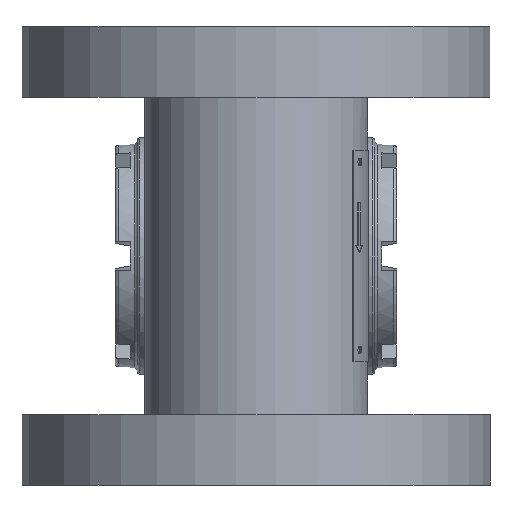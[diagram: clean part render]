
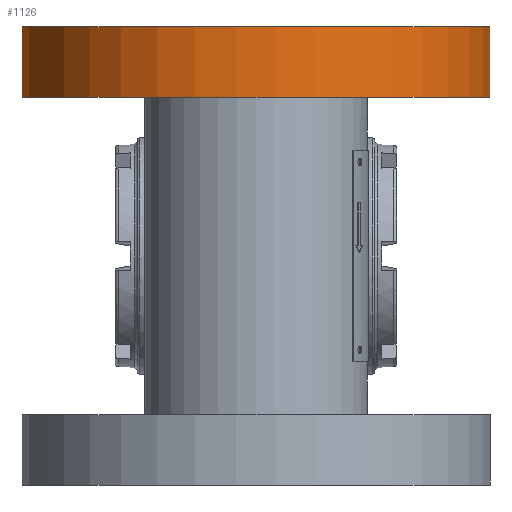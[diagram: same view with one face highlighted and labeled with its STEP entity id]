
A CAD part, front view. The second image highlights one B-rep face of the part: STEP entity #1126.
In plain terms, the highlighted cylindrical face has radius 80 mm (diameter 160 mm), a full revolution.
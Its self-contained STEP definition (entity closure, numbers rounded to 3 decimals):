
#1126=ADVANCED_FACE('',(#7071,#7073),#7075,.T.);
#7071=FACE_OUTER_BOUND('',#7072,.T.);
#7072=EDGE_LOOP('',(#10474));
#7073=FACE_OUTER_BOUND('',#7074,.T.);
#7074=EDGE_LOOP('',(#10475));
#7075=CYLINDRICAL_SURFACE('',#7076,80.);
#7076=AXIS2_PLACEMENT_3D('',#7077,#7078,#7079);
#7077=CARTESIAN_POINT('',(0.,0.,23.));
#7078=DIRECTION('',(0.,0.,-1.));
#7079=DIRECTION('',(0.707,0.707,0.));
#10474=ORIENTED_EDGE('',*,*,#12545,.T.);
#10475=ORIENTED_EDGE('',*,*,#12492,.F.);
#12492=EDGE_CURVE('',#13763,#13763,#13764,.T.);
#12545=EDGE_CURVE('',#13847,#13847,#13848,.T.);
#13763=VERTEX_POINT('',#17047);
#13764=CIRCLE('',#17048,80.);
#13847=VERTEX_POINT('',#17292);
#13848=CIRCLE('',#17293,80.);
#17047=CARTESIAN_POINT('',(56.569,56.569,-1.));
#17048=AXIS2_PLACEMENT_3D('',#17049,#17050,#17051);
#17049=CARTESIAN_POINT('',(0.,0.,-1.));
#17050=DIRECTION('',(0.,0.,-1.));
#17051=DIRECTION('',(0.707,0.707,0.));
#17292=CARTESIAN_POINT('',(56.569,56.569,23.));
#17293=AXIS2_PLACEMENT_3D('',#17294,#17295,#17296);
#17294=CARTESIAN_POINT('',(0.,0.,23.));
#17295=DIRECTION('',(0.,0.,-1.));
#17296=DIRECTION('',(0.707,0.707,0.));
